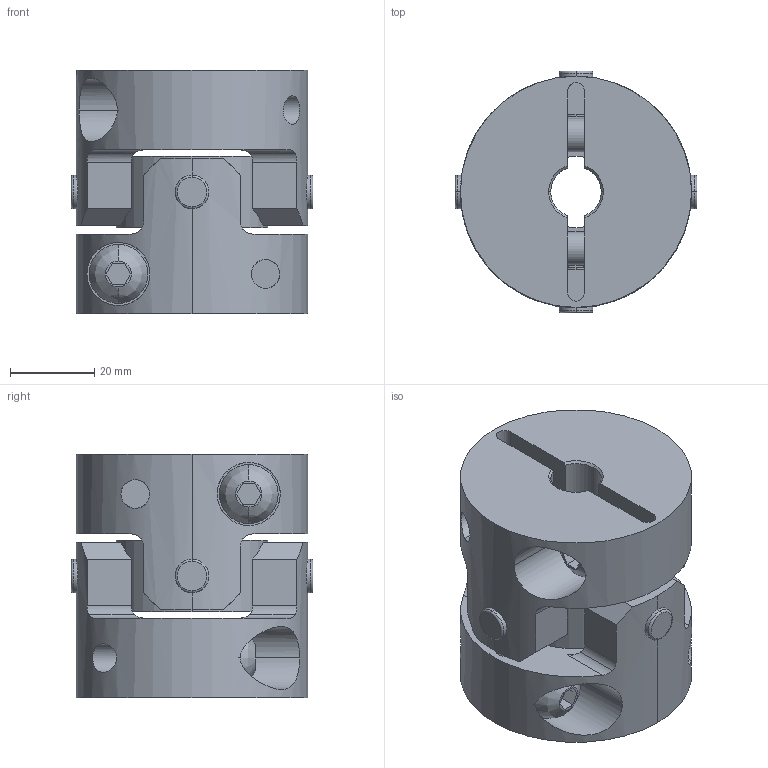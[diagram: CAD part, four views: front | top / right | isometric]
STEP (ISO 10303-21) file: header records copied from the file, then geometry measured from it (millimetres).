
FILE_DESCRIPTION((''),'2;1');
FILE_NAME('UA-55C-12×22.stp','2013-05-22T13:49:26',(''),(''),'AutoCAD STEP 2000i','AutoCAD 2000i',', , ');
FILE_SCHEMA(('CONFIG_CONTROL_DESIGN'));
Length unit declared in the file: millimetre
Products named in the file (7): UA-55C-10×18; 忣兜1; UA-5502-D18; BTN-M8; UA-5502-D10-1; UA-5502-D10; UA55-SEN
Assembly tree (8 placements, depth 3):
  UA-55C-10×18
    忣兜1
    UA-5502-D18
      BTN-M8
    UA-5502-D10-1
      BTN-M8
    UA-5502-D10
      BTN-M8
    UA55-SEN
Bounding box: 57.55 x 57.55 x 58 mm (x, y, z)
Volume: 97799.5 mm3; surface area: 31119.7 mm2
Topology: 1 solids, 1 shells, 206 faces, 554 edges, 364 vertices
Faces by surface type: cylinder 96, plane 78, cone 16, bspline 8, torus 8
Entity records: 8407 total; most frequent: CARTESIAN_POINT 3071, ORIENTED_EDGE 1108, DIRECTION 1068, EDGE_CURVE 554, AXIS2_PLACEMENT_3D 411, VERTEX_POINT 364, VECTOR 246, LINE 246
